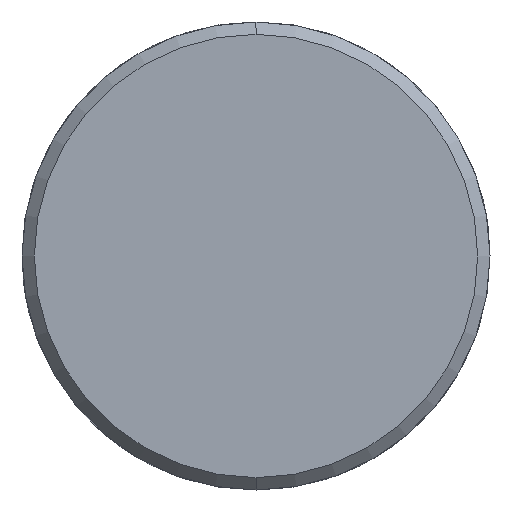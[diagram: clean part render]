
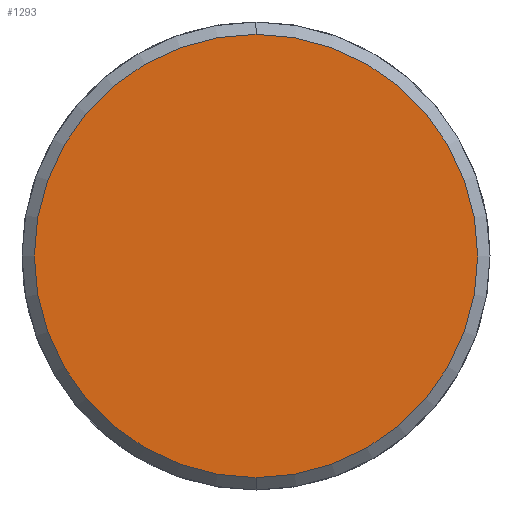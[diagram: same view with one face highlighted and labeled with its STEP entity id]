
A CAD part, left-side view. The second image highlights one B-rep face of the part: STEP entity #1293.
In plain terms, the highlighted planar face has unit normal (-1, 0, 0).
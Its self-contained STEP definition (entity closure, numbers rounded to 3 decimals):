
#1225=CARTESIAN_POINT('Vertex',(-7.,0.,-18.)) ;
#1228=CARTESIAN_POINT('Axis2P3D Location',(-7.,0.,0.)) ;
#1232=CARTESIAN_POINT('Vertex',(-7.,18.,0.)) ;
#1235=CARTESIAN_POINT('Axis2P3D Location',(-7.,0.,0.)) ;
#1239=CARTESIAN_POINT('Vertex',(-7.,0.,18.)) ;
#1261=CARTESIAN_POINT('Axis2P3D Location',(-7.,0.,0.)) ;
#1265=CARTESIAN_POINT('Vertex',(-7.,-18.,0.)) ;
#1268=CARTESIAN_POINT('Axis2P3D Location',(-7.,0.,0.)) ;
#1282=CARTESIAN_POINT('Axis2P3D Location',(-7.,0.,0.)) ;
#1229=DIRECTION('Axis2P3D Direction',(1.,0.,-0.)) ;
#1236=DIRECTION('Axis2P3D Direction',(1.,0.,-0.)) ;
#1262=DIRECTION('Axis2P3D Direction',(1.,0.,-0.)) ;
#1269=DIRECTION('Axis2P3D Direction',(1.,0.,-0.)) ;
#1283=DIRECTION('Axis2P3D Direction',(1.,0.,-0.)) ;
#1284=DIRECTION('Axis2P3D XDirection',(-0.,0.,-1.)) ;
#1230=AXIS2_PLACEMENT_3D('Circle Axis2P3D',#1228,#1229,$) ;
#1237=AXIS2_PLACEMENT_3D('Circle Axis2P3D',#1235,#1236,$) ;
#1263=AXIS2_PLACEMENT_3D('Circle Axis2P3D',#1261,#1262,$) ;
#1270=AXIS2_PLACEMENT_3D('Circle Axis2P3D',#1268,#1269,$) ;
#1285=AXIS2_PLACEMENT_3D('Plane Axis2P3D',#1282,#1283,#1284) ;
#1288=ORIENTED_EDGE('',*,*,#1234,.F.) ;
#1289=ORIENTED_EDGE('',*,*,#1272,.F.) ;
#1290=ORIENTED_EDGE('',*,*,#1267,.F.) ;
#1291=ORIENTED_EDGE('',*,*,#1241,.F.) ;
#1293=ADVANCED_FACE('351-25X96X220',(#1292),#1286,.F.) ;
#1231=CIRCLE('generated circle',#1230,18.) ;
#1238=CIRCLE('generated circle',#1237,18.) ;
#1264=CIRCLE('generated circle',#1263,18.) ;
#1271=CIRCLE('generated circle',#1270,18.) ;
#1234=EDGE_CURVE('',#1226,#1233,#1231,.T.) ;
#1241=EDGE_CURVE('',#1233,#1240,#1238,.T.) ;
#1267=EDGE_CURVE('',#1240,#1266,#1264,.T.) ;
#1272=EDGE_CURVE('',#1266,#1226,#1271,.T.) ;
#1287=EDGE_LOOP('',(#1288,#1289,#1290,#1291)) ;
#1292=FACE_OUTER_BOUND('',#1287,.T.) ;
#1286=PLANE('Plane',#1285) ;
#1226=VERTEX_POINT('',#1225) ;
#1233=VERTEX_POINT('',#1232) ;
#1240=VERTEX_POINT('',#1239) ;
#1266=VERTEX_POINT('',#1265) ;
